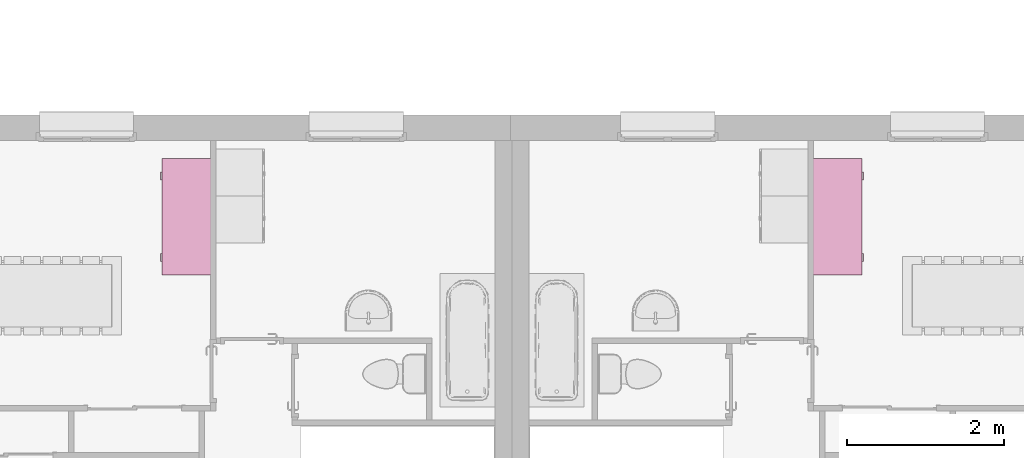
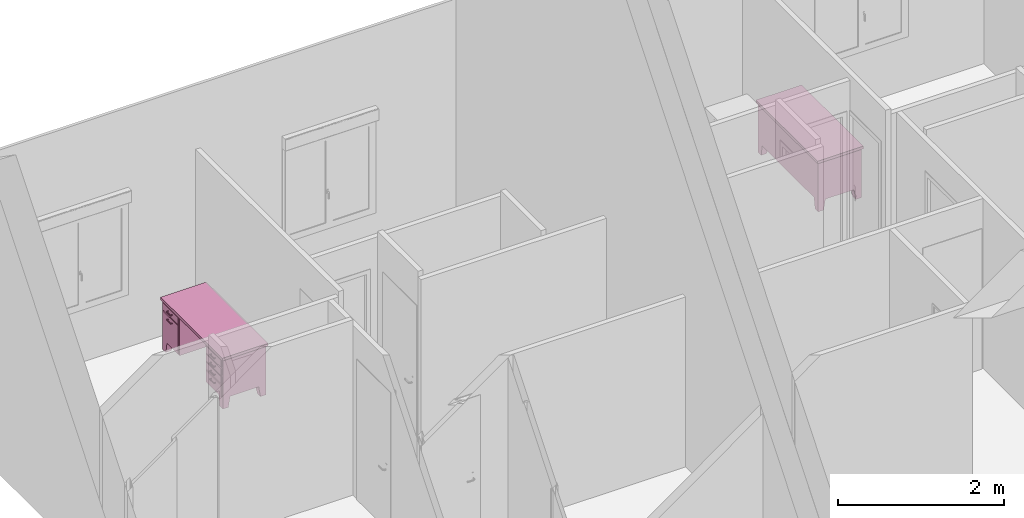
# One storey, part 45 of 50: 2 furnishings.
"""IFC2X3 building model written with IfcOpenShell, lengths in metres."""

import ifcopenshell
import ifcopenshell.guid

model = None  # the IFC model being written
_history = None  # IfcOwnerHistory: only IFC2X3 demands one
_inside = {}  # id of a spatial element -> (the spatial element, [elements in it])
_under = {}  # id of a project, library or spatial element -> (it, [spatial elements below it])
_declared = {}  # id of a project -> (the project, [libraries it declares])
_typed = {}  # id of a type object -> (the type object, [elements of that type])
_made_of = {}  # id of a material, layer set ... -> (it, [elements and type objects made of it])


def new_model(schema):
    """Start an empty IFC model of exactly this schema.

    Asked for "IFC4X3", IfcOpenShell would pick the latest addendum, in which some entities
    have other attributes; the version numbers below select the first issue.
    IFC2X3 requires an IfcOwnerHistory on every rooted entity: one is made here for all.
    """
    global model, _history
    if schema == "IFC4X3":
        model = ifcopenshell.file(schema_version=(4, 3, 0, 0))
    else:
        model = ifcopenshell.file(schema=schema)
    _inside.clear()
    _under.clear()
    _declared.clear()
    _typed.clear()
    _made_of.clear()
    _history = None
    if model.schema == "IFC2X3":
        org = make("IfcOrganization", Name="unknown")
        user = make(
            "IfcPersonAndOrganization",
            ThePerson=make("IfcPerson", FamilyName="unknown"),
            TheOrganization=org,
        )
        app = make(
            "IfcApplication",
            ApplicationDeveloper=org,
            Version="unknown",
            ApplicationFullName="unknown",
            ApplicationIdentifier="unknown",
        )
        _history = make(
            "IfcOwnerHistory",
            OwningUser=user,
            OwningApplication=app,
            ChangeAction="ADDED",
            CreationDate=0,
        )
    return model


def make(cls, **values):
    """One entity of the class cls with the attributes given. An attribute that is None is left unset."""
    return model.create_entity(
        cls, **{name: value for name, value in values.items() if value is not None}
    )


def entity(cls, *values):
    """Any entity or typed value of the class cls, its attributes in the order of the schema. None: left unset."""
    e = model.create_entity(cls)
    for i, value in enumerate(values):
        if value is not None:
            e[i] = value
    return e


def rooted(cls, **values):
    """An entity with a GlobalId (a new one), such as an element, a storey or a relation."""
    return make(cls, GlobalId=ifcopenshell.guid.new(), OwnerHistory=_history, **values)


def si_unit(unit_type, name, prefix=None):
    """IfcSIUnit, for example si_unit("LENGTHUNIT", "METRE", prefix="MILLI")."""
    return make("IfcSIUnit", UnitType=unit_type, Prefix=prefix, Name=name)


def converted_unit(unit_type, name, factor, base, dimensions=None, offset=None):
    """IfcConversionBasedUnit, such as the inch: factor (a typed value) times the base unit."""
    return make(
        "IfcConversionBasedUnit"
        if offset is None
        else "IfcConversionBasedUnitWithOffset",
        ConversionOffset=offset,
        Dimensions=None
        if dimensions is None
        else entity("IfcDimensionalExponents", *dimensions),
        UnitType=unit_type,
        Name=name,
        ConversionFactor=make(
            "IfcMeasureWithUnit", ValueComponent=factor, UnitComponent=base
        ),
    )


def derived_unit(unit_type, elements):
    """IfcDerivedUnit: a product of units, each with its exponent."""
    return make(
        "IfcDerivedUnit",
        Elements=[
            make("IfcDerivedUnitElement", Unit=unit, Exponent=power)
            for unit, power in elements
        ],
        UnitType=unit_type,
    )


def assignment(units):
    """IfcUnitAssignment: the units of a project."""
    return None if units is None else make("IfcUnitAssignment", Units=units)


def point(xyz):
    """IfcCartesianPoint."""
    return None if xyz is None else make("IfcCartesianPoint", Coordinates=xyz)


def direction(xyz):
    """IfcDirection."""
    return None if xyz is None else make("IfcDirection", DirectionRatios=xyz)


def frame(location, z_axis=None, x_axis=None):
    """IfcAxis2Placement3D, a coordinate frame: its origin and axes. An axis left out is left unset."""
    return make(
        "IfcAxis2Placement3D",
        Location=point(location),
        Axis=direction(z_axis),
        RefDirection=direction(x_axis),
    )


def origin():
    """The frame at (0, 0, 0) with its axes left unset."""
    return frame((0.0, 0.0, 0.0))


def place(relative_to, where):
    """IfcLocalPlacement: puts the frame where relative to a parent placement (None: the world)."""
    return make(
        "IfcLocalPlacement", PlacementRelTo=relative_to, RelativePlacement=where
    )


def context(
    kind, dimensions, precision=None, world=None, true_north=None, identifier=None
):
    """IfcGeometricRepresentationContext, for example the 3D "Model" context."""
    return make(
        "IfcGeometricRepresentationContext",
        ContextIdentifier=identifier,
        ContextType=kind,
        CoordinateSpaceDimension=dimensions,
        Precision=precision,
        WorldCoordinateSystem=world,
        TrueNorth=true_north,
    )


def subcontext(parent, identifier, kind, view, scale=None):
    """IfcGeometricRepresentationSubContext, for example "Body" below "Model"."""
    return make(
        "IfcGeometricRepresentationSubContext",
        ContextIdentifier=identifier,
        ContextType=kind,
        ParentContext=parent,
        TargetScale=scale,
        TargetView=view,
    )


def project(units=None, contexts=None):
    """IfcProject with its units and contexts."""
    return rooted(
        "IfcProject",
        Name="project",
        RepresentationContexts=contexts,
        UnitsInContext=assignment(units),
    )


def spatial(cls, under=None, at=None, **own):
    """A site, building, storey or space (cls), placed at a placement, below another one or the project."""
    s = rooted(cls, ObjectPlacement=at, **own)
    if under is not None:
        _under.setdefault(under.id(), (under, []))[1].append(s)
    return s


def faces_of(points, faces, orient=None, outer=None):
    """IfcFace entities. A face is a list of loops; a loop is a list of indices into points, from 0.

    orient and outer hold one flag for each loop. By default every Orientation is true, the
    first loop of a face is its IfcFaceOuterBound and the others are IfcFaceBound.
    """
    made = []
    for i, loops in enumerate(faces):
        bounds = []
        for j, loop in enumerate(loops):
            is_outer = j == 0 if outer is None else outer[i][j]
            bounds.append(
                make(
                    "IfcFaceOuterBound" if is_outer else "IfcFaceBound",
                    Bound=make("IfcPolyLoop", Polygon=[points[k] for k in loop]),
                    Orientation=True if orient is None else orient[i][j],
                )
            )
        made.append(make("IfcFace", Bounds=bounds))
    return made


def faceted_brep(points, faces, orient=None, outer=None, voids=None):
    """IfcFacetedBrep: a solid bounded by flat faces; with voids (closed shells), ...WithVoids."""
    shared = [point(p) for p in points]
    hull = make("IfcClosedShell", CfsFaces=faces_of(shared, faces, orient, outer))
    if voids is None:
        return make("IfcFacetedBrep", Outer=hull)
    return make(
        "IfcFacetedBrepWithVoids",
        Outer=hull,
        Voids=[
            make(cls, CfsFaces=faces_of(shared, fs, o, b)) for cls, fs, o, b in voids
        ],
    )


def shape(context_of_items, identifier, shape_type, items):
    """IfcShapeRepresentation: the items that make up one representation, for example the "Body"."""
    return make(
        "IfcShapeRepresentation",
        ContextOfItems=context_of_items,
        RepresentationIdentifier=identifier,
        RepresentationType=shape_type,
        Items=items,
    )


def source(mapping_origin, context_of_items, identifier, shape_type, items):
    """IfcRepresentationMap: a shape defined once, which mapped items show again and again."""
    return make(
        "IfcRepresentationMap",
        MappingOrigin=mapping_origin,
        MappedRepresentation=shape(context_of_items, identifier, shape_type, items),
    )


def transform(
    local_origin,
    x_axis=None,
    y_axis=None,
    z_axis=None,
    scale=None,
    scale2=None,
    scale3=None,
    uniform=True,
):
    """IfcCartesianTransformationOperator3D, or its non-uniform kind. x_axis, y_axis, z_axis: its Axis1, 2, 3."""
    if uniform:
        return make(
            "IfcCartesianTransformationOperator3D",
            Axis1=direction(x_axis),
            Axis2=direction(y_axis),
            LocalOrigin=point(local_origin),
            Scale=scale,
            Axis3=direction(z_axis),
        )
    return make(
        "IfcCartesianTransformationOperator3DnonUniform",
        Axis1=direction(x_axis),
        Axis2=direction(y_axis),
        LocalOrigin=point(local_origin),
        Scale=scale,
        Axis3=direction(z_axis),
        Scale2=scale2,
        Scale3=scale3,
    )


def mapped(mapping_source, mapping_target):
    """IfcMappedItem: shows the shape of a source again, moved by a transform."""
    return make(
        "IfcMappedItem", MappingSource=mapping_source, MappingTarget=mapping_target
    )


def material(Name=None, Category=None):
    """IfcMaterial."""
    return make("IfcMaterial", Name=Name, Category=Category)


def material_list(materials):
    """IfcMaterialList."""
    return make("IfcMaterialList", Materials=materials)


def made_of(thing, what):
    """Note that an element or type object is made of a material, layer set ...; save() writes the relation."""
    if what is not None:
        _made_of.setdefault(what.id(), (what, []))[1].append(thing)
    return thing


def type_object(cls, material=None, **own):
    """A type object (cls), such as IfcWallType, which elements share."""
    return made_of(rooted(cls, **own), material)


def type_shapes(of_type, sources):
    """Give a type object the sources (RepresentationMaps) that its elements show as mapped items."""
    of_type.RepresentationMaps = sources


def element(
    cls,
    number,
    at=None,
    inside=None,
    cuts=None,
    type_object=None,
    material=None,
    context=None,
    identifier="Body",
    shape_type=None,
    held_by="IfcProductDefinitionShape",
    body=None,
    shapes=None,
    **own,
):
    """One element of the class cls, such as IfcWall. Its Tag is "e" and its number.

    at: its placement. inside: the storey or other place that contains it. cuts: it is an
    opening in that element (IfcRelVoidsElement). A single representation is given by context,
    identifier, shape_type and body (its items); several are given by shapes. held_by: the class
    of the entity that holds the representations. save() writes the other relations.
    """
    e = rooted(cls, Tag="e%d" % number, ObjectPlacement=at, **own)
    if body is not None:
        shapes = [shape(context, identifier, shape_type, body)]
    if shapes is not None:
        e.Representation = make(held_by, Representations=shapes)
    if inside is not None:
        _inside.setdefault(inside.id(), (inside, []))[1].append(e)
    if cuts is not None:
        rooted(
            "IfcRelVoidsElement", RelatingBuildingElement=cuts, RelatedOpeningElement=e
        )
    if type_object is not None:
        _typed.setdefault(type_object.id(), (type_object, []))[1].append(e)
    return made_of(e, material)


def aggregate(whole, parts):
    """IfcRelAggregates: a whole, such as a stair, and the parts it consists of."""
    return rooted("IfcRelAggregates", RelatingObject=whole, RelatedObjects=parts)


def save(model, path):
    """Write the relations noted so far, then the file.

    IfcRelAggregates (storeys below a building ...), IfcRelContainedInSpatialStructure (elements
    in a storey), IfcRelDefinesByType, IfcRelAssociatesMaterial and IfcRelDeclares: one each for
    every whole, place, type object, material and project.
    """
    for whole, parts in _under.values():
        aggregate(whole, parts)
    for where, things in _inside.values():
        rooted(
            "IfcRelContainedInSpatialStructure",
            RelatedElements=things,
            RelatingStructure=where,
        )
    for kind, things in _typed.values():
        rooted("IfcRelDefinesByType", RelatedObjects=things, RelatingType=kind)
    for what, things in _made_of.values():
        rooted("IfcRelAssociatesMaterial", RelatedObjects=things, RelatingMaterial=what)
    for by, libraries in _declared.values():
        rooted("IfcRelDeclares", RelatingContext=by, RelatedDefinitions=libraries)
    model.write(path)


model = new_model("IFC2X3")

# Units and contexts
model_context = context("Model", 3, precision=1e-05, world=origin(), true_north=direction((6.12303176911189e-17, 1.0)))
context_of_model = context(None, 3, precision=1e-05, world=origin(), true_north=direction((6.12303176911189e-17, 1.0)))
body_context = subcontext(model_context, "Body", "Model", "MODEL_VIEW")
ifc_project = project(units=[si_unit("LENGTHUNIT", "METRE"), si_unit("AREAUNIT", "SQUARE_METRE"), si_unit("VOLUMEUNIT", "CUBIC_METRE"), converted_unit("PLANEANGLEUNIT", "DEGREE", entity("IfcRatioMeasure", 0.0174532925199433), si_unit("PLANEANGLEUNIT", "RADIAN"), dimensions=[0, 0, 0, 0, 0, 0, 0]), si_unit("MASSUNIT", "GRAM", prefix="KILO"), si_unit("TIMEUNIT", "SECOND"), si_unit("FREQUENCYUNIT", "HERTZ"), si_unit("THERMODYNAMICTEMPERATUREUNIT", "DEGREE_CELSIUS"), derived_unit("THERMALTRANSMITTANCEUNIT", [(si_unit("MASSUNIT", "GRAM", prefix="KILO"), 1), (si_unit("THERMODYNAMICTEMPERATUREUNIT", "KELVIN"), -1), (si_unit("TIMEUNIT", "SECOND"), -3)]), derived_unit("VOLUMETRICFLOWRATEUNIT", [(si_unit("LENGTHUNIT", "METRE"), 3), (si_unit("TIMEUNIT", "SECOND"), -1)]), si_unit("ELECTRICCURRENTUNIT", "AMPERE"), si_unit("ELECTRICVOLTAGEUNIT", "VOLT"), si_unit("POWERUNIT", "WATT"), si_unit("FORCEUNIT", "NEWTON", prefix="KILO"), si_unit("ILLUMINANCEUNIT", "LUX"), si_unit("LUMINOUSFLUXUNIT", "LUMEN"), si_unit("LUMINOUSINTENSITYUNIT", "CANDELA"), si_unit("PRESSUREUNIT", "PASCAL")], contexts=[model_context, context_of_model])

# Site, building, storey
site_placement = place(None, origin())
site = spatial("IfcSite", under=ifc_project, at=site_placement, Name="Surface", CompositionType="ELEMENT")
building_placement = place(site_placement, origin())
building = spatial("IfcBuilding", under=site, at=building_placement, CompositionType="ELEMENT")
storey_placement = place(building_placement, frame((0.0, 0.0, 2.82)))
storey = spatial("IfcBuildingStorey", under=building, at=storey_placement, Name="ETAGE", CompositionType="ELEMENT", Elevation=2.82)

# Furnishings
ifc_material_1 = material(Name="Bois - Mélaminé ivoire")
ifc_material_2 = material(Name="Métal - Chrome")
ifc_material_3 = material(Name="Bois - Cerisier")
ifc_material_list_1 = material_list([ifc_material_1, ifc_material_2, ifc_material_3])
ifc_material_list_2 = material_list([ifc_material_1, ifc_material_2, ifc_material_3])
furniture_type_1 = type_object("IfcFurnitureType", Name="1525 mm x 600 mm", AssemblyPlace="NOTDEFINED", material=ifc_material_list_2)
shared_shape_1 = source(origin(), body_context, "Body", "Brep", [
    faceted_brep([(1.06265, -0.599999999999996, 0.704850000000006), (1.43095, -0.599999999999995, 0.704850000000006), (1.43095, -0.599999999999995, 0.603250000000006), (1.06265, -0.599999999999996, 0.603250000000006), (1.06265, -0.612699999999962, 0.603250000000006), (1.06265, -0.612699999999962, 0.704850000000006), (1.43095, -0.612699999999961, 0.603250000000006), (1.43095, -0.612699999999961, 0.704850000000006)], [[[0, 1, 2, 3]], [[3, 4, 5, 0]], [[2, 6, 4, 3]], [[1, 7, 6, 2]], [[0, 5, 7, 1]], [[5, 4, 6, 7]]]),
    faceted_brep([(1.43095, -0.612699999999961, 0.584200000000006), (1.06265, -0.612699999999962, 0.584200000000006), (1.06265, -0.612699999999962, 0.17105), (1.43095, -0.612699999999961, 0.17105), (1.06265, -0.599999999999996, 0.584200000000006), (1.43095, -0.599999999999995, 0.584200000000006), (1.06265, -0.599999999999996, 0.17105), (1.43095, -0.599999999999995, 0.17105)], [[[0, 1, 2, 3]], [[4, 1, 0, 5]], [[6, 2, 1, 4]], [[7, 3, 2, 6]], [[5, 0, 3, 7]], [[5, 7, 6, 4]]]),
    faceted_brep([(0.38735, -0.6, 0.70485), (0.38735, -0.6, 0.60285), (0.01905, -0.6, 0.60285), (0.01905, -0.6, 0.70485), (0.01905, -0.612700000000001, 0.70485), (0.38735, -0.612700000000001, 0.70485), (0.01905, -0.612700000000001, 0.60285), (0.38735, -0.612700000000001, 0.60285)], [[[0, 1, 2, 3]], [[3, 4, 5, 0]], [[2, 6, 4, 3]], [[1, 7, 6, 2]], [[0, 5, 7, 1]], [[5, 4, 6, 7]]]),
    faceted_brep([(0.01905, -0.612700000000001, 0.5838), (0.01905, -0.612700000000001, 0.4822), (0.38735, -0.612700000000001, 0.4822), (0.38735, -0.612700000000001, 0.5838), (0.01905, -0.6, 0.4822), (0.01905, -0.6, 0.5838), (0.38735, -0.6, 0.4822), (0.38735, -0.6, 0.5838)], [[[0, 1, 2, 3]], [[4, 1, 0, 5]], [[6, 2, 1, 4]], [[7, 3, 2, 6]], [[5, 0, 3, 7]], [[5, 7, 6, 4]]]),
    faceted_brep([(0.01905, -0.6, 0.17105), (0.01905, -0.612700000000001, 0.17105), (0.01905, -0.612700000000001, 0.3425), (0.01905, -0.6, 0.3425), (0.38735, -0.6, 0.17105), (0.38735, -0.612700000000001, 0.17105), (0.38735, -0.6, 0.3425), (0.38735, -0.612700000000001, 0.3425)], [[[0, 1, 2, 3]], [[4, 5, 1, 0]], [[6, 7, 5, 4]], [[3, 2, 7, 6]], [[2, 1, 5, 7]], [[3, 6, 4, 0]]]),
    faceted_brep([(0.01905, -0.6, 0.36155), (0.01905, -0.612700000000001, 0.36155), (0.01905, -0.612700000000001, 0.46315), (0.01905, -0.6, 0.46315), (0.38735, -0.6, 0.36155), (0.38735, -0.612700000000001, 0.36155), (0.38735, -0.6, 0.46315), (0.38735, -0.612700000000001, 0.46315)], [[[0, 1, 2, 3]], [[4, 5, 1, 0]], [[6, 7, 5, 4]], [[3, 2, 7, 6]], [[2, 1, 5, 7]], [[3, 6, 4, 0]]]),
    faceted_brep([(1.34839999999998, -0.6, 0.152), (1.44999999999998, -0.6, 0.152), (1.44999999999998, -0.498399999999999, 0.152), (1.34839999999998, -0.498399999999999, 0.152), (1.37379999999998, -0.6, 0.0), (1.37379999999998, -0.5238, 0.0), (1.44999999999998, -0.5238, 0.0), (1.44999999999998, -0.6, 0.0)], [[[0, 1, 2, 3]], [[4, 5, 6, 7]], [[4, 0, 3, 5]], [[5, 3, 2, 6]], [[6, 2, 1, 7]], [[7, 1, 0, 4]]]),
    faceted_brep([(1.3484, 0.0, 0.152), (1.3484, -0.1016, 0.152), (1.45, -0.1016, 0.152), (1.45, 0.0, 0.152), (1.3738, 0.0, 0.0), (1.45, 0.0, 0.0), (1.45, -0.0761999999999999, 0.0), (1.3738, -0.0761999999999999, 0.0)], [[[0, 1, 2, 3]], [[4, 5, 6, 7]], [[4, 0, 3, 5]], [[5, 3, 2, 6]], [[6, 2, 1, 7]], [[7, 1, 0, 4]]]),
    faceted_brep([(0.1016, 0.0, 0.152), (0.0, 0.0, 0.152), (0.0, -0.1016, 0.152), (0.1016, -0.1016, 0.152), (0.0762, 0.0, 0.0), (0.0762, -0.0761999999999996, 0.0), (0.0, -0.0761999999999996, 0.0), (0.0, 0.0, 0.0)], [[[0, 1, 2, 3]], [[4, 5, 6, 7]], [[4, 0, 3, 5]], [[5, 3, 2, 6]], [[6, 2, 1, 7]], [[7, 1, 0, 4]]]),
    faceted_brep([(0.1016, -0.600000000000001, 0.152), (0.1016, -0.498400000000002, 0.152), (0.0, -0.498400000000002, 0.152), (0.0, -0.600000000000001, 0.152), (0.0761999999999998, -0.600000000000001, 0.0), (0.0, -0.600000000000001, 0.0), (0.0, -0.523800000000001, 0.0), (0.0761999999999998, -0.523800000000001, 0.0)], [[[0, 1, 2, 3]], [[4, 5, 6, 7]], [[4, 0, 3, 5]], [[5, 3, 2, 6]], [[6, 2, 1, 7]], [[7, 1, 0, 4]]]),
    faceted_brep([(0.4064, -0.6, 0.723900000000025), (0.4064, -0.0508000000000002, 0.723900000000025), (1.04360000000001, -0.0508000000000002, 0.723900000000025), (1.04360000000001, -0.6, 0.723900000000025), (1.45, -0.6, 0.723900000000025), (1.45, 0.0, 0.723900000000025), (0.0, 0.0, 0.723900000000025), (0.0, -0.6, 0.723900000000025), (0.4064, -0.6, 0.152), (0.0, -0.6, 0.152), (0.0, 0.0, 0.152), (1.45, 0.0, 0.152), (1.45, -0.6, 0.152), (1.04360000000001, -0.6, 0.152), (1.04360000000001, -0.0508000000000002, 0.152), (0.4064, -0.0508000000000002, 0.152)], [[[0, 1, 2, 3, 4, 5, 6, 7]], [[8, 9, 10, 11, 12, 13, 14, 15]], [[7, 9, 8, 0]], [[6, 10, 9, 7]], [[5, 11, 10, 6]], [[4, 12, 11, 5]], [[3, 13, 12, 4]], [[2, 14, 13, 3]], [[1, 15, 14, 2]], [[0, 8, 15, 1]]]),
    faceted_brep([(1.46905000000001, -0.619049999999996, 0.761999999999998), (1.46905000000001, 0.0190500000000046, 0.761999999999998), (-0.0190499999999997, 0.0190500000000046, 0.761999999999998), (-0.0190499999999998, -0.619049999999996, 0.761999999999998), (1.46905000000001, -0.619049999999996, 0.723900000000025), (-0.0190499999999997, -0.619049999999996, 0.723900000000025), (-0.0190499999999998, 0.0190500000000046, 0.723900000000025), (1.46905000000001, 0.0190500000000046, 0.723900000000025)], [[[0, 1, 2, 3]], [[4, 5, 6, 7]], [[3, 5, 4, 0]], [[2, 6, 5, 3]], [[1, 7, 6, 2]], [[0, 4, 7, 1]]]),
    faceted_brep([(1.29124999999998, -0.612699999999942, 0.546100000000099), (1.29759999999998, -0.612699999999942, 0.546100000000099), (1.29759999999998, -0.612699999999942, 0.533400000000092), (1.29124999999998, -0.612699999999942, 0.533400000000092), (1.29124999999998, -0.631749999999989, 0.533400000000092), (1.29124999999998, -0.631749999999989, 0.546100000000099), (1.29759999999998, -0.638099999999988, 0.533400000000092), (1.29759999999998, -0.638099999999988, 0.546100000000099), (1.20234999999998, -0.631749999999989, 0.533400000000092), (1.20234999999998, -0.631749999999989, 0.546100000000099), (1.19599999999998, -0.638099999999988, 0.533400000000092), (1.19599999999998, -0.638099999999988, 0.546100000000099), (1.20234999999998, -0.612699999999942, 0.533400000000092), (1.20234999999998, -0.612699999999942, 0.546100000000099), (1.19599999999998, -0.612699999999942, 0.533400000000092), (1.19599999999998, -0.612699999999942, 0.546100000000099)], [[[0, 1, 2, 3]], [[3, 4, 5, 0]], [[2, 6, 4, 3]], [[1, 7, 6, 2]], [[0, 5, 7, 1]], [[4, 8, 9, 5]], [[6, 10, 8, 4]], [[7, 11, 10, 6]], [[5, 9, 11, 7]], [[8, 12, 13, 9]], [[10, 14, 12, 8]], [[11, 15, 14, 10]], [[9, 13, 15, 11]], [[13, 12, 14, 15]]]),
    faceted_brep([(1.29124999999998, -0.612699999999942, 0.654050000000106), (1.29124999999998, -0.631749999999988, 0.654050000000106), (1.29124999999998, -0.631749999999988, 0.666750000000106), (1.29124999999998, -0.612699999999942, 0.666750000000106), (1.29759999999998, -0.612699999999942, 0.654050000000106), (1.29759999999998, -0.638099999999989, 0.654050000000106), (1.29759999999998, -0.612699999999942, 0.666750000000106), (1.29759999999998, -0.638099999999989, 0.666750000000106), (1.20234999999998, -0.631749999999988, 0.654050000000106), (1.20234999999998, -0.631749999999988, 0.666750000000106), (1.19599999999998, -0.638099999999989, 0.654050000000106), (1.19599999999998, -0.638099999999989, 0.666750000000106), (1.20234999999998, -0.612699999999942, 0.666750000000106), (1.20234999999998, -0.612699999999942, 0.654050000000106), (1.19599999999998, -0.612699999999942, 0.654050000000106), (1.19599999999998, -0.612699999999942, 0.666750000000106)], [[[0, 1, 2, 3]], [[4, 5, 1, 0]], [[6, 7, 5, 4]], [[3, 2, 7, 6]], [[1, 8, 9, 2]], [[5, 10, 8, 1]], [[7, 11, 10, 5]], [[2, 9, 11, 7]], [[12, 13, 14, 15]], [[8, 13, 12, 9]], [[10, 14, 13, 8]], [[11, 15, 14, 10]], [[9, 12, 15, 11]], [[3, 6, 4, 0]]]),
    faceted_brep([(0.15875, -0.612699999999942, 0.3048), (0.15875, -0.612699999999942, 0.2921), (0.1524, -0.612699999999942, 0.2921), (0.1524, -0.612699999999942, 0.3048), (0.1524, -0.638099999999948, 0.3048), (0.15875, -0.631749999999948, 0.3048), (0.1524, -0.638099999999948, 0.2921), (0.15875, -0.631749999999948, 0.2921), (0.254, -0.638099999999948, 0.3048), (0.24765, -0.631749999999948, 0.3048), (0.254, -0.638099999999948, 0.2921), (0.24765, -0.631749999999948, 0.2921), (0.254, -0.612699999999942, 0.3048), (0.24765, -0.612699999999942, 0.3048), (0.254, -0.612699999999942, 0.2921), (0.24765, -0.612699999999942, 0.2921)], [[[0, 1, 2, 3]], [[3, 4, 5, 0]], [[2, 6, 4, 3]], [[1, 7, 6, 2]], [[0, 5, 7, 1]], [[4, 8, 9, 5]], [[6, 10, 8, 4]], [[7, 11, 10, 6]], [[5, 9, 11, 7]], [[8, 12, 13, 9]], [[10, 14, 12, 8]], [[11, 15, 14, 10]], [[9, 13, 15, 11]], [[13, 12, 14, 15]]]),
    faceted_brep([(0.1524, -0.612699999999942, 0.425450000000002), (0.1524, -0.638099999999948, 0.425450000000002), (0.15875, -0.631749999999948, 0.425450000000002), (0.15875, -0.612699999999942, 0.425450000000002), (0.1524, -0.612699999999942, 0.412750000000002), (0.1524, -0.638099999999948, 0.412750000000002), (0.15875, -0.612699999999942, 0.412750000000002), (0.15875, -0.631749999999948, 0.412750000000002), (0.254, -0.638099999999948, 0.425450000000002), (0.24765, -0.631749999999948, 0.425450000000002), (0.254, -0.638099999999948, 0.412750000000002), (0.24765, -0.631749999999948, 0.412750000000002), (0.254, -0.612699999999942, 0.425450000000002), (0.24765, -0.612699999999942, 0.425450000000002), (0.254, -0.612699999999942, 0.412750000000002), (0.24765, -0.612699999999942, 0.412750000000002)], [[[0, 1, 2, 3]], [[4, 5, 1, 0]], [[6, 7, 5, 4]], [[3, 2, 7, 6]], [[1, 8, 9, 2]], [[5, 10, 8, 1]], [[7, 11, 10, 5]], [[2, 9, 11, 7]], [[8, 12, 13, 9]], [[10, 14, 12, 8]], [[11, 15, 14, 10]], [[9, 13, 15, 11]], [[13, 12, 14, 15]], [[3, 6, 4, 0]]]),
    faceted_brep([(0.1524, -0.612699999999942, 0.5461), (0.1524, -0.638099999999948, 0.5461), (0.15875, -0.631749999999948, 0.5461), (0.15875, -0.612699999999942, 0.5461), (0.1524, -0.612699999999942, 0.5334), (0.1524, -0.638099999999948, 0.5334), (0.15875, -0.612699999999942, 0.5334), (0.15875, -0.631749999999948, 0.5334), (0.254, -0.638099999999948, 0.5461), (0.24765, -0.631749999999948, 0.5461), (0.254, -0.638099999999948, 0.5334), (0.24765, -0.631749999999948, 0.5334), (0.254, -0.612699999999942, 0.5461), (0.24765, -0.612699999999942, 0.5461), (0.254, -0.612699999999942, 0.5334), (0.24765, -0.612699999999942, 0.5334)], [[[0, 1, 2, 3]], [[4, 5, 1, 0]], [[6, 7, 5, 4]], [[3, 2, 7, 6]], [[1, 8, 9, 2]], [[5, 10, 8, 1]], [[7, 11, 10, 5]], [[2, 9, 11, 7]], [[8, 12, 13, 9]], [[10, 14, 12, 8]], [[11, 15, 14, 10]], [[9, 13, 15, 11]], [[13, 12, 14, 15]], [[3, 6, 4, 0]]]),
    faceted_brep([(0.1524, -0.612699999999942, 0.666750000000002), (0.1524, -0.638099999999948, 0.666750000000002), (0.15875, -0.631749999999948, 0.666750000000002), (0.15875, -0.612699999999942, 0.666750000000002), (0.1524, -0.612699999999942, 0.654050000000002), (0.1524, -0.638099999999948, 0.654050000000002), (0.15875, -0.612699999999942, 0.654050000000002), (0.15875, -0.631749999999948, 0.654050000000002), (0.254, -0.638099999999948, 0.666750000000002), (0.24765, -0.631749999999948, 0.666750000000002), (0.254, -0.638099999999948, 0.654050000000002), (0.24765, -0.631749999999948, 0.654050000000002), (0.24765, -0.612699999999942, 0.666750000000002), (0.254, -0.612699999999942, 0.666750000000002), (0.254, -0.612699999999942, 0.654050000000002), (0.24765, -0.612699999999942, 0.654050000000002)], [[[0, 1, 2, 3]], [[4, 5, 1, 0]], [[6, 7, 5, 4]], [[3, 2, 7, 6]], [[1, 8, 9, 2]], [[5, 10, 8, 1]], [[7, 11, 10, 5]], [[2, 9, 11, 7]], [[12, 13, 14, 15]], [[8, 13, 12, 9]], [[10, 14, 13, 8]], [[11, 15, 14, 10]], [[9, 12, 15, 11]], [[3, 6, 4, 0]]]),
])
type_shapes(furniture_type_1, [shared_shape_1])
furnishing_1_placement = place(storey_placement, frame((72.6767429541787, 86.4077566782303, 0.0199999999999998), z_axis=(0.0, 0.0, 1.0), x_axis=(0.0, 1.0, 0.0)))
element("IfcFurnishingElement", 1, at=furnishing_1_placement, inside=storey, type_object=furniture_type_1, material=ifc_material_list_1, Name="Bureau commun:1525 mm x 600 mm", ObjectType="1525 mm x 600 mm", context=body_context, shape_type="MappedRepresentation", body=[
    mapped(shared_shape_1, transform((0.0, 0.0, 0.0), scale=1.0)),
])
ifc_material_list_3 = material_list([ifc_material_1, ifc_material_2, ifc_material_3])
ifc_material_list_4 = material_list([ifc_material_1, ifc_material_2, ifc_material_3])
furniture_type_2 = type_object("IfcFurnitureType", Name="1525 mm x 600 mm", AssemblyPlace="NOTDEFINED", material=ifc_material_list_4)
shared_shape_2 = source(origin(), body_context, "Body", "Brep", [
    faceted_brep([(1.06265, 0.599999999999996, 0.704850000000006), (1.06265, 0.599999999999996, 0.603250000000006), (1.43095, 0.599999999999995, 0.603250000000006), (1.43095, 0.599999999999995, 0.704850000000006), (1.06265, 0.612699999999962, 0.704850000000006), (1.06265, 0.612699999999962, 0.603250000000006), (1.43095, 0.612699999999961, 0.603250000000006), (1.43095, 0.612699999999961, 0.704850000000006)], [[[0, 1, 2, 3]], [[1, 0, 4, 5]], [[2, 1, 5, 6]], [[3, 2, 6, 7]], [[0, 3, 7, 4]], [[4, 7, 6, 5]]]),
    faceted_brep([(1.43095, 0.612699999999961, 0.584200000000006), (1.43095, 0.612699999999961, 0.17105), (1.06265, 0.612699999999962, 0.17105), (1.06265, 0.612699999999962, 0.584200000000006), (1.06265, 0.599999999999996, 0.584200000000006), (1.43095, 0.599999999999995, 0.584200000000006), (1.06265, 0.599999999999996, 0.17105), (1.43095, 0.599999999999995, 0.17105)], [[[0, 1, 2, 3]], [[4, 5, 0, 3]], [[6, 4, 3, 2]], [[7, 6, 2, 1]], [[5, 7, 1, 0]], [[5, 4, 6, 7]]]),
    faceted_brep([(0.38735, 0.6, 0.70485), (0.01905, 0.6, 0.70485), (0.01905, 0.6, 0.60285), (0.38735, 0.6, 0.60285), (0.38735, 0.612700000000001, 0.70485), (0.01905, 0.612700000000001, 0.70485), (0.01905, 0.612700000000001, 0.60285), (0.38735, 0.612700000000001, 0.60285)], [[[0, 1, 2, 3]], [[1, 0, 4, 5]], [[2, 1, 5, 6]], [[3, 2, 6, 7]], [[0, 3, 7, 4]], [[4, 7, 6, 5]]]),
    faceted_brep([(0.01905, 0.612700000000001, 0.5838), (0.38735, 0.612700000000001, 0.5838), (0.38735, 0.612700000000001, 0.4822), (0.01905, 0.612700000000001, 0.4822), (0.01905, 0.6, 0.4822), (0.01905, 0.6, 0.5838), (0.38735, 0.6, 0.4822), (0.38735, 0.6, 0.5838)], [[[0, 1, 2, 3]], [[4, 5, 0, 3]], [[6, 4, 3, 2]], [[7, 6, 2, 1]], [[5, 7, 1, 0]], [[5, 4, 6, 7]]]),
    faceted_brep([(0.01905, 0.6, 0.17105), (0.01905, 0.6, 0.3425), (0.01905, 0.612700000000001, 0.3425), (0.01905, 0.612700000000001, 0.17105), (0.38735, 0.6, 0.17105), (0.38735, 0.612700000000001, 0.17105), (0.38735, 0.6, 0.3425), (0.38735, 0.612700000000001, 0.3425)], [[[0, 1, 2, 3]], [[4, 0, 3, 5]], [[6, 4, 5, 7]], [[1, 6, 7, 2]], [[2, 7, 5, 3]], [[1, 0, 4, 6]]]),
    faceted_brep([(0.01905, 0.6, 0.36155), (0.01905, 0.6, 0.46315), (0.01905, 0.612700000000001, 0.46315), (0.01905, 0.612700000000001, 0.36155), (0.38735, 0.6, 0.36155), (0.38735, 0.612700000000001, 0.36155), (0.38735, 0.6, 0.46315), (0.38735, 0.612700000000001, 0.46315)], [[[0, 1, 2, 3]], [[4, 0, 3, 5]], [[6, 4, 5, 7]], [[1, 6, 7, 2]], [[2, 7, 5, 3]], [[1, 0, 4, 6]]]),
    faceted_brep([(1.34839999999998, 0.6, 0.152), (1.34839999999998, 0.498399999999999, 0.152), (1.44999999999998, 0.498399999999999, 0.152), (1.44999999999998, 0.6, 0.152), (1.37379999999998, 0.6, 0.0), (1.44999999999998, 0.6, 0.0), (1.44999999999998, 0.5238, 0.0), (1.37379999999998, 0.5238, 0.0)], [[[0, 1, 2, 3]], [[4, 5, 6, 7]], [[4, 7, 1, 0]], [[7, 6, 2, 1]], [[6, 5, 3, 2]], [[5, 4, 0, 3]]]),
    faceted_brep([(1.3484, 0.0, 0.152), (1.45, 0.0, 0.152), (1.45, 0.1016, 0.152), (1.3484, 0.1016, 0.152), (1.3738, 0.0, 0.0), (1.3738, 0.0761999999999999, 0.0), (1.45, 0.0761999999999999, 0.0), (1.45, 0.0, 0.0)], [[[0, 1, 2, 3]], [[4, 5, 6, 7]], [[4, 7, 1, 0]], [[7, 6, 2, 1]], [[6, 5, 3, 2]], [[5, 4, 0, 3]]]),
    faceted_brep([(0.1016, 0.0, 0.152), (0.1016, 0.1016, 0.152), (0.0, 0.1016, 0.152), (0.0, 0.0, 0.152), (0.0762, 0.0, 0.0), (0.0, 0.0, 0.0), (0.0, 0.0761999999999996, 0.0), (0.0762, 0.0761999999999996, 0.0)], [[[0, 1, 2, 3]], [[4, 5, 6, 7]], [[4, 7, 1, 0]], [[7, 6, 2, 1]], [[6, 5, 3, 2]], [[5, 4, 0, 3]]]),
    faceted_brep([(0.1016, 0.600000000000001, 0.152), (0.0, 0.600000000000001, 0.152), (0.0, 0.498400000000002, 0.152), (0.1016, 0.498400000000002, 0.152), (0.0761999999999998, 0.600000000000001, 0.0), (0.0761999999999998, 0.523800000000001, 0.0), (0.0, 0.523800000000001, 0.0), (0.0, 0.600000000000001, 0.0)], [[[0, 1, 2, 3]], [[4, 5, 6, 7]], [[4, 7, 1, 0]], [[7, 6, 2, 1]], [[6, 5, 3, 2]], [[5, 4, 0, 3]]]),
    faceted_brep([(0.4064, 0.6, 0.723900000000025), (0.0, 0.6, 0.723900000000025), (0.0, 0.0, 0.723900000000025), (1.45, 0.0, 0.723900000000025), (1.45, 0.6, 0.723900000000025), (1.04360000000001, 0.6, 0.723900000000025), (1.04360000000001, 0.0508000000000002, 0.723900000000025), (0.4064, 0.0508000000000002, 0.723900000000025), (0.4064, 0.6, 0.152), (0.4064, 0.0508000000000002, 0.152), (1.04360000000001, 0.0508000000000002, 0.152), (1.04360000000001, 0.6, 0.152), (1.45, 0.6, 0.152), (1.45, 0.0, 0.152), (0.0, 0.0, 0.152), (0.0, 0.6, 0.152)], [[[0, 1, 2, 3, 4, 5, 6, 7]], [[8, 9, 10, 11, 12, 13, 14, 15]], [[1, 0, 8, 15]], [[2, 1, 15, 14]], [[3, 2, 14, 13]], [[4, 3, 13, 12]], [[5, 4, 12, 11]], [[6, 5, 11, 10]], [[7, 6, 10, 9]], [[0, 7, 9, 8]]]),
    faceted_brep([(1.46905000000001, 0.619049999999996, 0.761999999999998), (-0.0190499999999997, 0.619049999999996, 0.761999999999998), (-0.0190499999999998, -0.0190500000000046, 0.761999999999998), (1.46905000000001, -0.0190500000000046, 0.761999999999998), (1.46905000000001, 0.619049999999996, 0.723900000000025), (1.46905000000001, -0.0190500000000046, 0.723900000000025), (-0.0190499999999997, -0.0190500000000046, 0.723900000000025), (-0.0190499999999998, 0.619049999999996, 0.723900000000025)], [[[0, 1, 2, 3]], [[4, 5, 6, 7]], [[1, 0, 4, 7]], [[2, 1, 7, 6]], [[3, 2, 6, 5]], [[0, 3, 5, 4]]]),
    faceted_brep([(1.29124999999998, 0.612699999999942, 0.546100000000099), (1.29124999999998, 0.612699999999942, 0.533400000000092), (1.29759999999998, 0.612699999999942, 0.533400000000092), (1.29759999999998, 0.612699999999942, 0.546100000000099), (1.29124999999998, 0.631749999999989, 0.546100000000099), (1.29124999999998, 0.631749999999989, 0.533400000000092), (1.29759999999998, 0.638099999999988, 0.533400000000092), (1.29759999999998, 0.638099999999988, 0.546100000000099), (1.20234999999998, 0.631749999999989, 0.546100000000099), (1.20234999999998, 0.631749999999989, 0.533400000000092), (1.19599999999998, 0.638099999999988, 0.533400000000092), (1.19599999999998, 0.638099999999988, 0.546100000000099), (1.20234999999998, 0.612699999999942, 0.546100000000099), (1.20234999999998, 0.612699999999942, 0.533400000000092), (1.19599999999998, 0.612699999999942, 0.533400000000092), (1.19599999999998, 0.612699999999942, 0.546100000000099)], [[[0, 1, 2, 3]], [[1, 0, 4, 5]], [[2, 1, 5, 6]], [[3, 2, 6, 7]], [[0, 3, 7, 4]], [[5, 4, 8, 9]], [[6, 5, 9, 10]], [[7, 6, 10, 11]], [[4, 7, 11, 8]], [[9, 8, 12, 13]], [[10, 9, 13, 14]], [[11, 10, 14, 15]], [[8, 11, 15, 12]], [[12, 15, 14, 13]]]),
    faceted_brep([(1.29124999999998, 0.612699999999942, 0.654050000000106), (1.29124999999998, 0.612699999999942, 0.666750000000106), (1.29124999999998, 0.631749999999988, 0.666750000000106), (1.29124999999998, 0.631749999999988, 0.654050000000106), (1.29759999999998, 0.612699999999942, 0.654050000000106), (1.29759999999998, 0.638099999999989, 0.654050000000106), (1.29759999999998, 0.612699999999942, 0.666750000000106), (1.29759999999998, 0.638099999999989, 0.666750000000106), (1.20234999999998, 0.631749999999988, 0.666750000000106), (1.20234999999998, 0.631749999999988, 0.654050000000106), (1.19599999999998, 0.638099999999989, 0.654050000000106), (1.19599999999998, 0.638099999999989, 0.666750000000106), (1.20234999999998, 0.612699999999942, 0.666750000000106), (1.19599999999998, 0.612699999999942, 0.666750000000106), (1.19599999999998, 0.612699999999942, 0.654050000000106), (1.20234999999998, 0.612699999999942, 0.654050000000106)], [[[0, 1, 2, 3]], [[4, 0, 3, 5]], [[6, 4, 5, 7]], [[1, 6, 7, 2]], [[3, 2, 8, 9]], [[5, 3, 9, 10]], [[7, 5, 10, 11]], [[2, 7, 11, 8]], [[12, 13, 14, 15]], [[9, 8, 12, 15]], [[10, 9, 15, 14]], [[11, 10, 14, 13]], [[8, 11, 13, 12]], [[1, 0, 4, 6]]]),
    faceted_brep([(0.15875, 0.612699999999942, 0.3048), (0.1524, 0.612699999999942, 0.3048), (0.1524, 0.612699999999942, 0.2921), (0.15875, 0.612699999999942, 0.2921), (0.15875, 0.631749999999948, 0.3048), (0.1524, 0.638099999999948, 0.3048), (0.1524, 0.638099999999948, 0.2921), (0.15875, 0.631749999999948, 0.2921), (0.24765, 0.631749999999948, 0.3048), (0.254, 0.638099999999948, 0.3048), (0.254, 0.638099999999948, 0.2921), (0.24765, 0.631749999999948, 0.2921), (0.24765, 0.612699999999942, 0.3048), (0.254, 0.612699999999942, 0.3048), (0.254, 0.612699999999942, 0.2921), (0.24765, 0.612699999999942, 0.2921)], [[[0, 1, 2, 3]], [[1, 0, 4, 5]], [[2, 1, 5, 6]], [[3, 2, 6, 7]], [[0, 3, 7, 4]], [[5, 4, 8, 9]], [[6, 5, 9, 10]], [[7, 6, 10, 11]], [[4, 7, 11, 8]], [[9, 8, 12, 13]], [[10, 9, 13, 14]], [[11, 10, 14, 15]], [[8, 11, 15, 12]], [[12, 15, 14, 13]]]),
    faceted_brep([(0.1524, 0.612699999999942, 0.425450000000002), (0.15875, 0.612699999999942, 0.425450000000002), (0.15875, 0.631749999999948, 0.425450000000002), (0.1524, 0.638099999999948, 0.425450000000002), (0.1524, 0.612699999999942, 0.412750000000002), (0.1524, 0.638099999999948, 0.412750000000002), (0.15875, 0.612699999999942, 0.412750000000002), (0.15875, 0.631749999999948, 0.412750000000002), (0.24765, 0.631749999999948, 0.425450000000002), (0.254, 0.638099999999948, 0.425450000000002), (0.254, 0.638099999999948, 0.412750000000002), (0.24765, 0.631749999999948, 0.412750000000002), (0.24765, 0.612699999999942, 0.425450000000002), (0.254, 0.612699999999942, 0.425450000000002), (0.254, 0.612699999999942, 0.412750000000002), (0.24765, 0.612699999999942, 0.412750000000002)], [[[0, 1, 2, 3]], [[4, 0, 3, 5]], [[6, 4, 5, 7]], [[1, 6, 7, 2]], [[3, 2, 8, 9]], [[5, 3, 9, 10]], [[7, 5, 10, 11]], [[2, 7, 11, 8]], [[9, 8, 12, 13]], [[10, 9, 13, 14]], [[11, 10, 14, 15]], [[8, 11, 15, 12]], [[12, 15, 14, 13]], [[1, 0, 4, 6]]]),
    faceted_brep([(0.1524, 0.612699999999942, 0.5461), (0.15875, 0.612699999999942, 0.5461), (0.15875, 0.631749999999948, 0.5461), (0.1524, 0.638099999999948, 0.5461), (0.1524, 0.612699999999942, 0.5334), (0.1524, 0.638099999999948, 0.5334), (0.15875, 0.612699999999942, 0.5334), (0.15875, 0.631749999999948, 0.5334), (0.24765, 0.631749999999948, 0.5461), (0.254, 0.638099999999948, 0.5461), (0.254, 0.638099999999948, 0.5334), (0.24765, 0.631749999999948, 0.5334), (0.24765, 0.612699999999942, 0.5461), (0.254, 0.612699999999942, 0.5461), (0.254, 0.612699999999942, 0.5334), (0.24765, 0.612699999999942, 0.5334)], [[[0, 1, 2, 3]], [[4, 0, 3, 5]], [[6, 4, 5, 7]], [[1, 6, 7, 2]], [[3, 2, 8, 9]], [[5, 3, 9, 10]], [[7, 5, 10, 11]], [[2, 7, 11, 8]], [[9, 8, 12, 13]], [[10, 9, 13, 14]], [[11, 10, 14, 15]], [[8, 11, 15, 12]], [[12, 15, 14, 13]], [[1, 0, 4, 6]]]),
    faceted_brep([(0.1524, 0.612699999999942, 0.666750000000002), (0.15875, 0.612699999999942, 0.666750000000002), (0.15875, 0.631749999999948, 0.666750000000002), (0.1524, 0.638099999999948, 0.666750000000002), (0.1524, 0.612699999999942, 0.654050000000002), (0.1524, 0.638099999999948, 0.654050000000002), (0.15875, 0.612699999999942, 0.654050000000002), (0.15875, 0.631749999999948, 0.654050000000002), (0.24765, 0.631749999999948, 0.666750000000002), (0.254, 0.638099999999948, 0.666750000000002), (0.254, 0.638099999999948, 0.654050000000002), (0.24765, 0.631749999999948, 0.654050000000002), (0.24765, 0.612699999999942, 0.666750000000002), (0.24765, 0.612699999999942, 0.654050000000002), (0.254, 0.612699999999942, 0.654050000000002), (0.254, 0.612699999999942, 0.666750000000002)], [[[0, 1, 2, 3]], [[4, 0, 3, 5]], [[6, 4, 5, 7]], [[1, 6, 7, 2]], [[3, 2, 8, 9]], [[5, 3, 9, 10]], [[7, 5, 10, 11]], [[2, 7, 11, 8]], [[12, 13, 14, 15]], [[9, 8, 12, 15]], [[10, 9, 15, 14]], [[11, 10, 14, 13]], [[8, 11, 13, 12]], [[1, 0, 4, 6]]]),
])
type_shapes(furniture_type_2, [shared_shape_2])
furnishing_2_placement = place(storey_placement, frame((64.9925097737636, 86.4077566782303, 0.0199999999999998), z_axis=(0.0, 0.0, 1.0), x_axis=(0.0, 1.0, 0.0)))
element("IfcFurnishingElement", 2, at=furnishing_2_placement, inside=storey, type_object=furniture_type_2, material=ifc_material_list_3, Name="Bureau commun:1525 mm x 600 mm", ObjectType="1525 mm x 600 mm", context=body_context, shape_type="MappedRepresentation", body=[
    mapped(shared_shape_2, transform((0.0, 0.0, 0.0), scale=1.0)),
])

save(model, "model.ifc")
